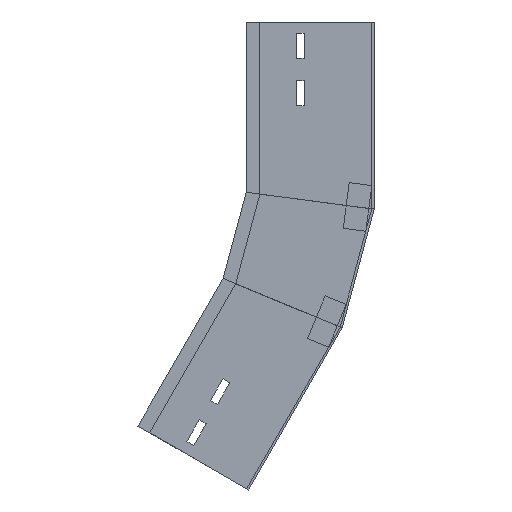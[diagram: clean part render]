
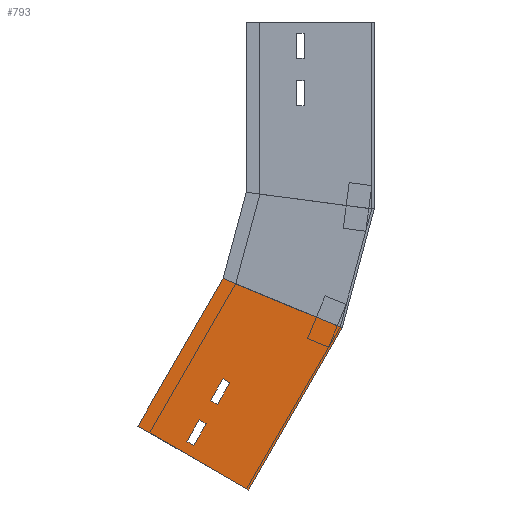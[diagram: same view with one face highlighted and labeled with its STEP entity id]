
A CAD part, left-side view. The second image highlights one B-rep face of the part: STEP entity #793.
In plain terms, the highlighted planar face has unit normal (-1, 0, 0) as drawn and (1, 0, 0) by its records, which use the part's own axes.
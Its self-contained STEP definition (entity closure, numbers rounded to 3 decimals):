
#20 = DIRECTION ( 'NONE',  ( 0., 1., 0. ) ) ;
#50 = DIRECTION ( 'NONE',  ( 0., 0., 1. ) ) ;
#53 = EDGE_CURVE ( 'NONE', #829, #395, #915, .T. ) ;
#54 = CARTESIAN_POINT ( 'NONE',  ( 0., 68.5, -73.505 ) ) ;
#60 = VECTOR ( 'NONE', #134, 1000. ) ;
#77 = ORIENTED_EDGE ( 'NONE', *, *, #135, .F. ) ;
#80 = DIRECTION ( 'NONE',  ( 0., -0.991, -0.131 ) ) ;
#81 = CARTESIAN_POINT ( 'NONE',  ( 0., 61.5, -9.835 ) ) ;
#112 = EDGE_LOOP ( 'NONE', ( #391, #320, #1457, #77 ) ) ;
#134 = DIRECTION ( 'NONE',  ( 0., 1., 0. ) ) ;
#135 = EDGE_CURVE ( 'NONE', #395, #794, #1325, .T. ) ;
#142 = EDGE_CURVE ( 'NONE', #1400, #155, #1112, .T. ) ;
#155 = VERTEX_POINT ( 'NONE', #1211 ) ;
#270 = LINE ( 'NONE', #54, #954 ) ;
#292 = CARTESIAN_POINT ( 'NONE',  ( 0., 21.301, -161.796 ) ) ;
#307 = EDGE_CURVE ( 'NONE', #1443, #829, #595, .T. ) ;
#317 = EDGE_CURVE ( 'NONE', #1322, #544, #372, .T. ) ;
#320 = ORIENTED_EDGE ( 'NONE', *, *, #307, .F. ) ;
#336 = CARTESIAN_POINT ( 'NONE',  ( 0., 68.5, -9.835 ) ) ;
#367 = EDGE_CURVE ( 'NONE', #544, #462, #1066, .T. ) ;
#372 = LINE ( 'NONE', #927, #1059 ) ;
#391 = ORIENTED_EDGE ( 'NONE', *, *, #53, .F. ) ;
#395 = VERTEX_POINT ( 'NONE', #850 ) ;
#404 = DIRECTION ( 'NONE',  ( 0., 1., 0. ) ) ;
#435 = VECTOR ( 'NONE', #80, 1000. ) ;
#462 = VERTEX_POINT ( 'NONE', #769 ) ;
#494 = DIRECTION ( 'NONE',  ( 0., 0., 1. ) ) ;
#505 = LINE ( 'NONE', #955, #60 ) ;
#524 = CARTESIAN_POINT ( 'NONE',  ( 0., 112.5, 0. ) ) ;
#531 = ORIENTED_EDGE ( 'NONE', *, *, #554, .T. ) ;
#544 = VERTEX_POINT ( 'NONE', #704 ) ;
#547 = CARTESIAN_POINT ( 'NONE',  ( 0., 68.5, -9.835 ) ) ;
#551 = VECTOR ( 'NONE', #830, 1000. ) ;
#554 = EDGE_CURVE ( 'NONE', #1206, #1400, #505, .T. ) ;
#555 = DIRECTION ( 'NONE',  ( 0., 0., -1. ) ) ;
#578 = VECTOR ( 'NONE', #1374, 1000. ) ;
#585 = VECTOR ( 'NONE', #404, 1000. ) ;
#593 = EDGE_CURVE ( 'NONE', #462, #1275, #1052, .T. ) ;
#595 = LINE ( 'NONE', #1168, #1222 ) ;
#606 = EDGE_LOOP ( 'NONE', ( #1044, #870, #658, #630 ) ) ;
#630 = ORIENTED_EDGE ( 'NONE', *, *, #317, .T. ) ;
#635 = FACE_BOUND ( 'NONE', #606, .T. ) ;
#649 = CARTESIAN_POINT ( 'NONE',  ( 0., 0., -164.6 ) ) ;
#658 = ORIENTED_EDGE ( 'NONE', *, *, #1397, .T. ) ;
#679 = EDGE_LOOP ( 'NONE', ( #531, #1099, #1124, #754 ) ) ;
#704 = CARTESIAN_POINT ( 'NONE',  ( 0., 61.5, -51.505 ) ) ;
#709 = EDGE_CURVE ( 'NONE', #1389, #1206, #1033, .T. ) ;
#723 = EDGE_CURVE ( 'NONE', #1443, #794, #1267, .T. ) ;
#724 = CARTESIAN_POINT ( 'NONE',  ( 0., 0., 0. ) ) ;
#729 = LINE ( 'NONE', #1189, #551 ) ;
#734 = CARTESIAN_POINT ( 'NONE',  ( 0., 0., 0. ) ) ;
#754 = ORIENTED_EDGE ( 'NONE', *, *, #709, .T. ) ;
#760 = CARTESIAN_POINT ( 'NONE',  ( 0., 61.5, -9.835 ) ) ;
#769 = CARTESIAN_POINT ( 'NONE',  ( 0., 68.5, -51.505 ) ) ;
#793 = ADVANCED_FACE ( 'NONE', ( #635, #1081, #979 ), #1089, .F. ) ;
#794 = VERTEX_POINT ( 'NONE', #649 ) ;
#829 = VERTEX_POINT ( 'NONE', #524 ) ;
#830 = DIRECTION ( 'NONE',  ( 0., -1., 0. ) ) ;
#847 = CARTESIAN_POINT ( 'NONE',  ( 0., 61.5, -31.835 ) ) ;
#850 = CARTESIAN_POINT ( 'NONE',  ( 0., 112.5, -149.789 ) ) ;
#870 = ORIENTED_EDGE ( 'NONE', *, *, #593, .T. ) ;
#893 = VECTOR ( 'NONE', #960, 1000. ) ;
#915 = LINE ( 'NONE', #1195, #893 ) ;
#927 = CARTESIAN_POINT ( 'NONE',  ( 0., 61.5, -51.505 ) ) ;
#928 = CARTESIAN_POINT ( 'NONE',  ( 0., 68.5, -51.505 ) ) ;
#953 = CARTESIAN_POINT ( 'NONE',  ( 0., 68.5, -51.505 ) ) ;
#954 = VECTOR ( 'NONE', #1223, 1000. ) ;
#955 = CARTESIAN_POINT ( 'NONE',  ( 0., 68.5, -9.835 ) ) ;
#958 = DIRECTION ( 'NONE',  ( 0., 0., 1. ) ) ;
#960 = DIRECTION ( 'NONE',  ( 0., 0., -1. ) ) ;
#979 = FACE_BOUND ( 'NONE', #679, .T. ) ;
#1033 = LINE ( 'NONE', #81, #1415 ) ;
#1044 = ORIENTED_EDGE ( 'NONE', *, *, #367, .T. ) ;
#1052 = LINE ( 'NONE', #928, #578 ) ;
#1059 = VECTOR ( 'NONE', #494, 1000. ) ;
#1066 = LINE ( 'NONE', #953, #585 ) ;
#1081 = FACE_OUTER_BOUND ( 'NONE', #112, .T. ) ;
#1089 = PLANE ( 'NONE',  #1445 ) ;
#1099 = ORIENTED_EDGE ( 'NONE', *, *, #142, .T. ) ;
#1112 = LINE ( 'NONE', #547, #1135 ) ;
#1124 = ORIENTED_EDGE ( 'NONE', *, *, #1355, .T. ) ;
#1135 = VECTOR ( 'NONE', #555, 1000. ) ;
#1168 = CARTESIAN_POINT ( 'NONE',  ( 0., 0., 0. ) ) ;
#1170 = DIRECTION ( 'NONE',  ( 0., 0., -1. ) ) ;
#1189 = CARTESIAN_POINT ( 'NONE',  ( 0., 68.5, -31.835 ) ) ;
#1195 = CARTESIAN_POINT ( 'NONE',  ( 0., 112.5, 0. ) ) ;
#1206 = VERTEX_POINT ( 'NONE', #760 ) ;
#1211 = CARTESIAN_POINT ( 'NONE',  ( 0., 68.5, -31.835 ) ) ;
#1220 = DIRECTION ( 'NONE',  ( -1., 0., 0. ) ) ;
#1222 = VECTOR ( 'NONE', #20, 1000. ) ;
#1223 = DIRECTION ( 'NONE',  ( 0., -1., 0. ) ) ;
#1264 = CARTESIAN_POINT ( 'NONE',  ( 0., 61.5, -73.505 ) ) ;
#1267 = LINE ( 'NONE', #724, #1354 ) ;
#1275 = VERTEX_POINT ( 'NONE', #1310 ) ;
#1310 = CARTESIAN_POINT ( 'NONE',  ( 0., 68.5, -73.505 ) ) ;
#1322 = VERTEX_POINT ( 'NONE', #1264 ) ;
#1325 = LINE ( 'NONE', #292, #435 ) ;
#1354 = VECTOR ( 'NONE', #1170, 1000. ) ;
#1355 = EDGE_CURVE ( 'NONE', #155, #1389, #729, .T. ) ;
#1374 = DIRECTION ( 'NONE',  ( 0., 0., -1. ) ) ;
#1389 = VERTEX_POINT ( 'NONE', #847 ) ;
#1397 = EDGE_CURVE ( 'NONE', #1275, #1322, #270, .T. ) ;
#1398 = CARTESIAN_POINT ( 'NONE',  ( 0., 0., 0. ) ) ;
#1400 = VERTEX_POINT ( 'NONE', #336 ) ;
#1415 = VECTOR ( 'NONE', #958, 1000. ) ;
#1443 = VERTEX_POINT ( 'NONE', #1398 ) ;
#1445 = AXIS2_PLACEMENT_3D ( 'NONE', #734, #1220, #50 ) ;
#1457 = ORIENTED_EDGE ( 'NONE', *, *, #723, .T. ) ;
